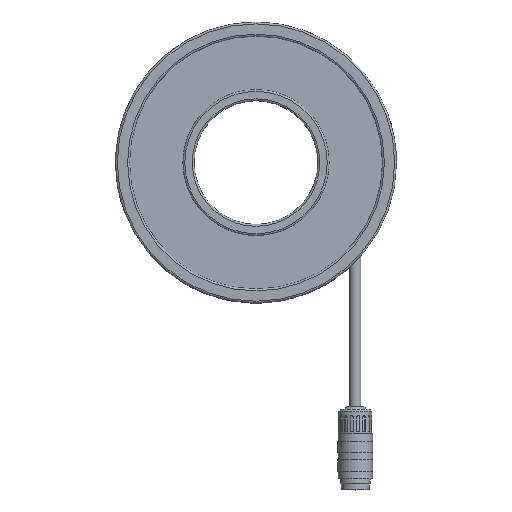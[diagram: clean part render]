
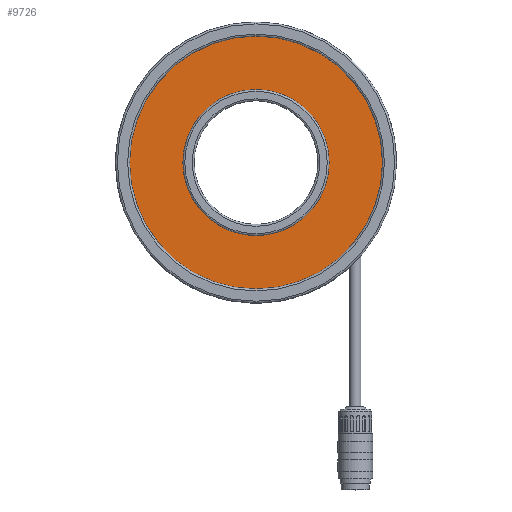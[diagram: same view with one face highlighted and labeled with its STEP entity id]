
A CAD part, top view. The second image highlights one B-rep face of the part: STEP entity #9726.
In plain terms, the highlighted planar face has unit normal (0, 0, 1).
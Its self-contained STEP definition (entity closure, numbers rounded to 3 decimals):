
#1759=PLANE('',#14193);
#4212=ORIENTED_EDGE('',*,*,#5653,.F.);
#4213=ORIENTED_EDGE('',*,*,#5644,.F.);
#5644=EDGE_CURVE('',#6645,#6645,#7210,.T.);
#5653=EDGE_CURVE('',#6654,#6654,#7219,.T.);
#6645=VERTEX_POINT('',#22554);
#6654=VERTEX_POINT('',#22584);
#7210=CIRCLE('',#14173,67.5);
#7219=CIRCLE('',#14194,36.);
#8030=EDGE_LOOP('',(#4212));
#8031=EDGE_LOOP('',(#4213));
#8894=FACE_BOUND('',#8030,.T.);
#8895=FACE_BOUND('',#8031,.T.);
#9726=ADVANCED_FACE('',(#8894,#8895),#1759,.T.);
#14173=AXIS2_PLACEMENT_3D('',#22553,#16918,#16919);
#14193=AXIS2_PLACEMENT_3D('',#22582,#16958,#16959);
#14194=AXIS2_PLACEMENT_3D('',#22583,#16960,#16961);
#16918=DIRECTION('',(0.,0.,-1.));
#16919=DIRECTION('',(-1.,0.,0.));
#16958=DIRECTION('',(0.,0.,1.));
#16959=DIRECTION('',(0.924,0.383,0.));
#16960=DIRECTION('',(0.,0.,1.));
#16961=DIRECTION('',(-0.924,-0.383,0.));
#22553=CARTESIAN_POINT('',(0.,0.,28.5));
#22554=CARTESIAN_POINT('',(-67.5,0.,28.5));
#22582=CARTESIAN_POINT('',(0.,0.,28.5));
#22583=CARTESIAN_POINT('',(0.,0.,28.5));
#22584=CARTESIAN_POINT('',(-33.254,-13.79,28.5));
